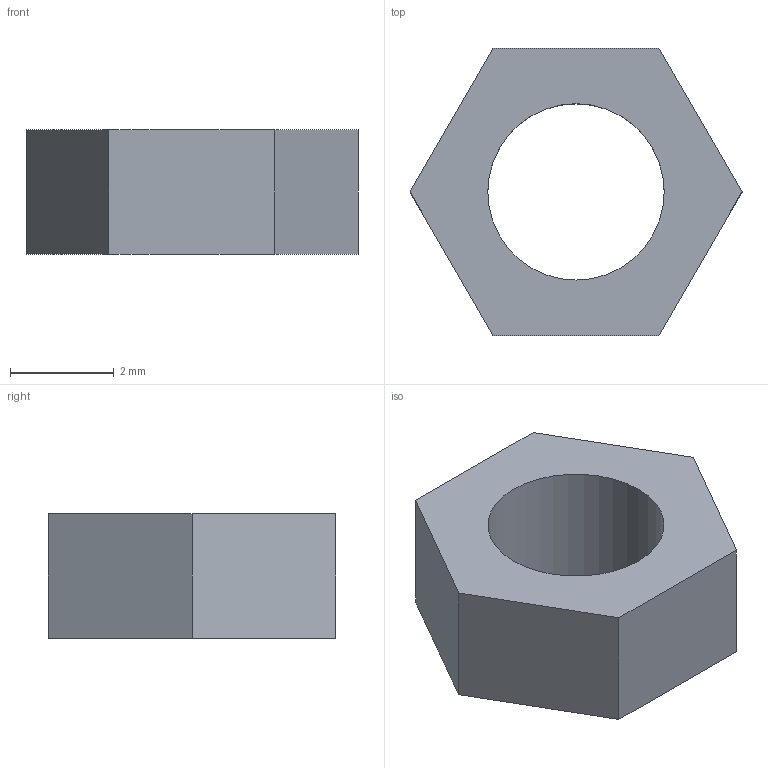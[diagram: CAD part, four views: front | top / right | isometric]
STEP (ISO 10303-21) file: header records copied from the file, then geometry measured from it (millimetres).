
FILE_DESCRIPTION(('Open CASCADE Model'),'2;1');
FILE_NAME('Open CASCADE Shape Model','2026-10-06T03:35:42',('Author'),( 'Open CASCADE'),'Open CASCADE STEP processor 7.8','Open CASCADE 7.8' ,'Unknown');
FILE_SCHEMA(('AUTOMOTIVE_DESIGN { 1 0 10303 214 1 1 1 1 }'));
Length unit declared in the file: millimetre
Products named in the file (1): Open CASCADE STEP translator 7.8 71
Bounding box: 6.4 x 5.54 x 2.4 mm (x, y, z)
Volume: 42.1 mm3; surface area: 106.8 mm2
Topology: 1 solids, 1 shells, 9 faces, 21 edges, 14 vertices
Faces by surface type: plane 8, cylinder 1
Full cylindrical faces by diameter (mm): 3.4 x1
Entity records: 547 total; most frequent: CARTESIAN_POINT 93, DIRECTION 84, LINE 59, VECTOR 59, ORIENTED_EDGE 42, PCURVE 42, DEFINITIONAL_REPRESENTATION 42, EDGE_CURVE 21
